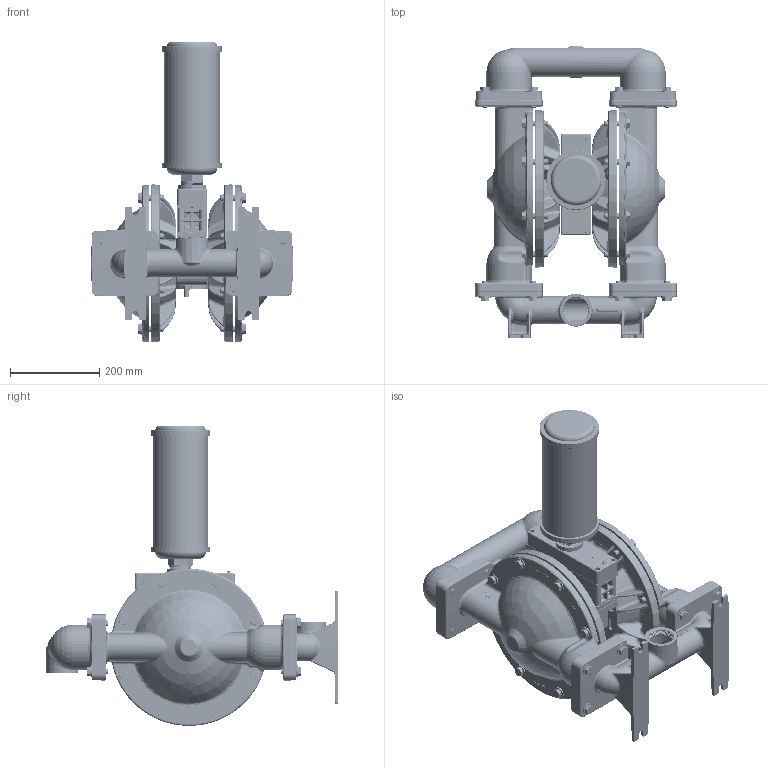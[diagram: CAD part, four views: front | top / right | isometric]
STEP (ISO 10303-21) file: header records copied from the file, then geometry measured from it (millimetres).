
FILE_DESCRIPTION((''),'2;1');
FILE_NAME('PS800_SS_TOP_DROP_IN_SW0001','2013-06-10T',('Bill.Watson'),(''),'PRO/ENGINEER BY PARAMETRIC TECHNOLOGY CORPORATION, 2011180','PRO/ENGINEER BY PARAMETRIC TECHNOLOGY CORPORATION, 2011180','');
FILE_SCHEMA(('CONFIG_CONTROL_DESIGN'));
Length unit declared in the file: inch
Products named in the file (1): PS800_SS_TOP_DROP_IN_SW0001
Bounding box: 452.41 x 657.19 x 674.71 mm (x, y, z)
Volume: 15103926.8 mm3; surface area: 2610885.3 mm2
Topology: 8 solids, 17 shells, 15536 faces, 40763 edges, 25961 vertices
Faces by surface type: plane 9973, cylinder 1838, bspline 1717, cone 832, torus 794, sphere 304, extrusion 78
Entity records: 993673 total; most frequent: CARTESIAN_POINT 623003, ORIENTED_EDGE 81474, DIRECTION 69965, EDGE_CURVE 40737, VECTOR 28455, LINE 28377, VERTEX_POINT 25961, AXIS2_PLACEMENT_3D 20755
